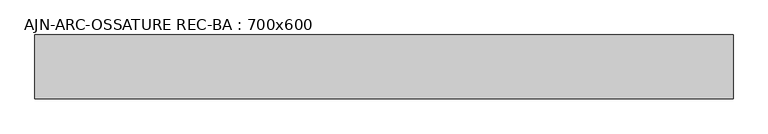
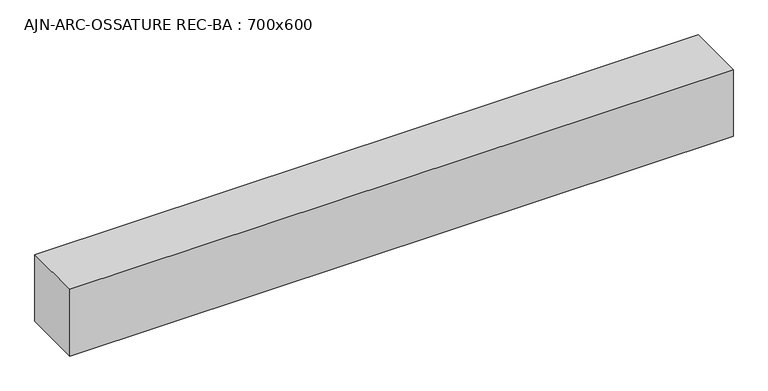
"""IFC4 building model written with IfcOpenShell, lengths in millimetres: beam geometry, AJN-ARC-OSSATURE REC-BA : 700x600."""

from ifc_helpers import new_model, si_unit, frame, origin, place, context, project, spatial, polyline, outline, extrude, source, transform, mapped, element, save


def ajn_arc_ossature_rec_ba_700x600_5c14351b(model_context):
    return source(origin(), model_context, "Body", "SweptSolid", [
        extrude(outline(polyline([(3287.3, 300.0), (3287.3, -300.0), (-3287.3, -300.0), (-3287.3, 300.0), (3287.3, 300.0)])), frame((0.0, 0.0, -350.0), z_axis=(0.0, 0.0, 1.0), x_axis=(1.0, 0.0, 0.0)), (0.0, 0.0, 1.0), 700.0),
    ])


if __name__ == "__main__":
    model = new_model("IFC4")
    model_context = context("Model", 3, world=origin())
    ifc_project = project(units=[si_unit("LENGTHUNIT", "METRE", prefix="MILLI")], contexts=[model_context])
    site = spatial("IfcSite", under=ifc_project)
    building = spatial("IfcBuilding", under=site)
    placement = place(None, origin())
    ajn_arc_ossature_rec_ba_700x600_shape = ajn_arc_ossature_rec_ba_700x600_5c14351b(model_context)
    element("IfcBeam", 1, ObjectType="AJN-ARC-OSSATURE REC-BA : 700x600", at=placement, inside=building, context=model_context, shape_type="MappedRepresentation", body=[
        mapped(ajn_arc_ossature_rec_ba_700x600_shape, transform((0.0, 0.0, 0.0), x_axis=(1.0, 0.0, 0.0), y_axis=(0.0, 1.0, 0.0), z_axis=(0.0, 0.0, 1.0))),
    ])
    save(model, "model.ifc")
